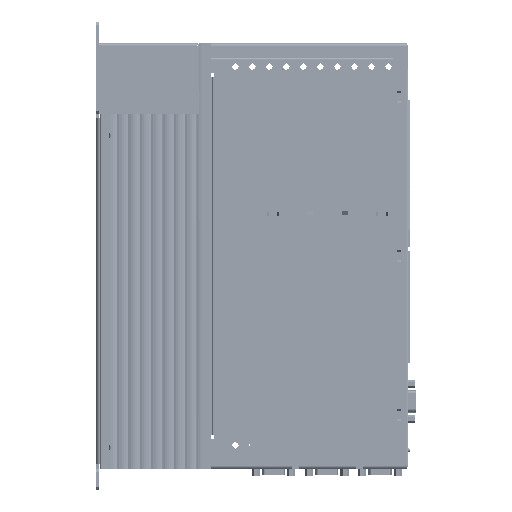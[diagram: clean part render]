
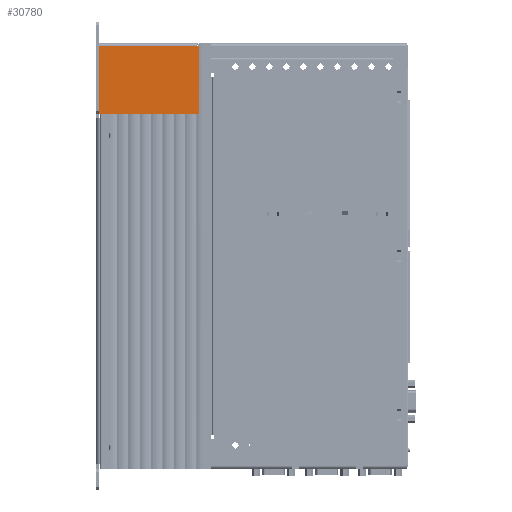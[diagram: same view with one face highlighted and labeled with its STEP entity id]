
A CAD part, left-side view. The second image highlights one B-rep face of the part: STEP entity #30780.
In plain terms, the highlighted planar face has unit normal (-1, 0, 0) as drawn and (1, 0, 0) by its records, which use the part's own axes.
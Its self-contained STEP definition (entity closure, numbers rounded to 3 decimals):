
#26550 = VERTEX_POINT ( 'NONE', #126654 ) ;
#26561 = EDGE_CURVE ( 'NONE', #26566, #26550, #126647, .T. ) ;
#26566 = VERTEX_POINT ( 'NONE', #126711 ) ;
#30664 = VERTEX_POINT ( 'NONE', #136502 ) ;
#30717 = EDGE_CURVE ( 'NONE', #30664, #30719, #136695, .T. ) ;
#30719 = VERTEX_POINT ( 'NONE', #136689 ) ;
#30780 = ADVANCED_FACE ( 'NONE', ( #136904 ), #136902, .F. ) ;
#30784 = EDGE_LOOP ( 'NONE', ( #30786, #30788, #30795, #30805, #30807 ) ) ;
#30786 = ORIENTED_EDGE ( 'NONE', *, *, #30717, .T. ) ;
#30788 = ORIENTED_EDGE ( 'NONE', *, *, #30790, .F. ) ;
#30790 = EDGE_CURVE ( 'NONE', #30793, #30719, #136876, .T. ) ;
#30793 = VERTEX_POINT ( 'NONE', #136856 ) ;
#30795 = ORIENTED_EDGE ( 'NONE', *, *, #30798, .F. ) ;
#30798 = EDGE_CURVE ( 'NONE', #26566, #30793, #136852, .T. ) ;
#30805 = ORIENTED_EDGE ( 'NONE', *, *, #26561, .T. ) ;
#30807 = ORIENTED_EDGE ( 'NONE', *, *, #30855, .T. ) ;
#30855 = EDGE_CURVE ( 'NONE', #26550, #30664, #136981, .T. ) ;
#126644 = DIRECTION ( 'NONE',  ( 0., 0., -1. ) ) ;
#126645 = CARTESIAN_POINT ( 'NONE',  ( 60., 1.8, 71. ) ) ;
#126647 = LINE ( 'NONE', #126645, #126713 ) ;
#126654 = CARTESIAN_POINT ( 'NONE',  ( 60., 1.8, 69.2 ) ) ;
#126711 = CARTESIAN_POINT ( 'NONE',  ( 60., 1.8, 71. ) ) ;
#126713 = VECTOR ( 'NONE', #126644, 1000. ) ;
#136502 = CARTESIAN_POINT ( 'NONE',  ( 60., 1.8, 0. ) ) ;
#136689 = CARTESIAN_POINT ( 'NONE',  ( 60., 50., 0. ) ) ;
#136690 = DIRECTION ( 'NONE',  ( 0., 1., 0. ) ) ;
#136692 = VECTOR ( 'NONE', #136690, 1000. ) ;
#136693 = CARTESIAN_POINT ( 'NONE',  ( 60., 0., 0. ) ) ;
#136695 = LINE ( 'NONE', #136693, #136692 ) ;
#136848 = DIRECTION ( 'NONE',  ( 0., 1., 0. ) ) ;
#136849 = VECTOR ( 'NONE', #136848, 1000. ) ;
#136850 = CARTESIAN_POINT ( 'NONE',  ( 60., 0., 71. ) ) ;
#136852 = LINE ( 'NONE', #136850, #136849 ) ;
#136856 = CARTESIAN_POINT ( 'NONE',  ( 60., 50., 71. ) ) ;
#136869 = DIRECTION ( 'NONE',  ( 0., 0., -1. ) ) ;
#136870 = VECTOR ( 'NONE', #136869, 1000. ) ;
#136873 = CARTESIAN_POINT ( 'NONE',  ( 60., 50., 71. ) ) ;
#136876 = LINE ( 'NONE', #136873, #136870 ) ;
#136893 = DIRECTION ( 'NONE',  ( 0., -1., 0. ) ) ;
#136895 = DIRECTION ( 'NONE',  ( -1., 0., 0. ) ) ;
#136897 = AXIS2_PLACEMENT_3D ( 'NONE', #136901, #136895, #136893 ) ;
#136901 = CARTESIAN_POINT ( 'NONE',  ( 60., 0., 71. ) ) ;
#136902 = PLANE ( 'NONE',  #136897 ) ;
#136904 = FACE_OUTER_BOUND ( 'NONE', #30784, .T. ) ;
#136975 = CARTESIAN_POINT ( 'NONE',  ( 60., 1.8, 71. ) ) ;
#136981 = LINE ( 'NONE', #136975, #137097 ) ;
#137095 = DIRECTION ( 'NONE',  ( 0., 0., -1. ) ) ;
#137097 = VECTOR ( 'NONE', #137095, 1000. ) ;
